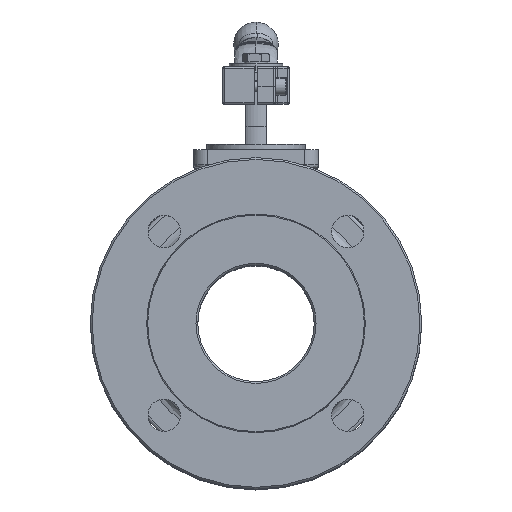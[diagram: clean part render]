
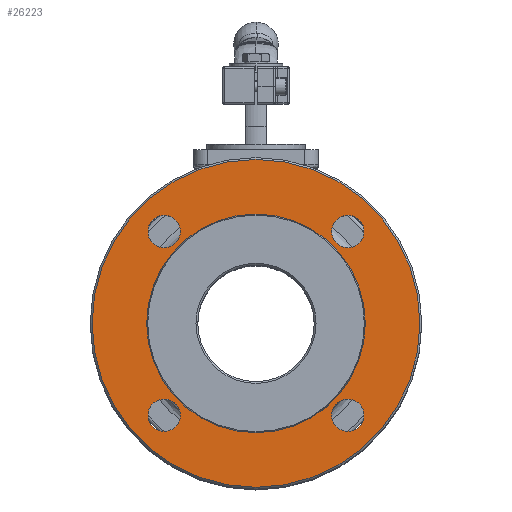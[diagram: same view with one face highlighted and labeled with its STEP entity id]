
A CAD part, top view. The second image highlights one B-rep face of the part: STEP entity #26223.
In plain terms, the highlighted planar face has unit normal (0, 0, 1) as drawn and (0, -1, 0) by its records, which use the part's own axes.
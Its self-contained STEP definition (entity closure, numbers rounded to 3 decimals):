
#77 = ORIENTED_EDGE ( 'NONE', *, *, #17727, .T. ) ;
#435 = ORIENTED_EDGE ( 'NONE', *, *, #30335, .T. ) ;
#806 = CARTESIAN_POINT ( 'NONE',  ( -51.265, -53.253, -55.015 ) ) ;
#941 = EDGE_CURVE ( 'NONE', #44424, #16489, #20390, .T. ) ;
#1043 = DIRECTION ( 'NONE',  ( 0., 0., 1. ) ) ;
#1078 = DIRECTION ( 'NONE',  ( 0., -1., 0. ) ) ;
#1945 = EDGE_CURVE ( 'NONE', #4787, #3110, #35277, .T. ) ;
#2548 = ORIENTED_EDGE ( 'NONE', *, *, #31754, .T. ) ;
#3039 = AXIS2_PLACEMENT_3D ( 'NONE', #7894, #1078, #25359 ) ;
#3110 = VERTEX_POINT ( 'NONE', #44539 ) ;
#3564 = CIRCLE ( 'NONE', #6757, 9. ) ;
#3918 = CIRCLE ( 'NONE', #31579, 9. ) ;
#3977 = DIRECTION ( 'NONE',  ( 0., 1., 0. ) ) ;
#4294 = DIRECTION ( 'NONE',  ( 0., 0., 1. ) ) ;
#4517 = EDGE_LOOP ( 'NONE', ( #14851, #7247 ) ) ;
#4577 = DIRECTION ( 'NONE',  ( 0., 0., 1. ) ) ;
#4787 = VERTEX_POINT ( 'NONE', #6707 ) ;
#4939 = CIRCLE ( 'NONE', #30427, 9. ) ;
#5809 = ORIENTED_EDGE ( 'NONE', *, *, #941, .T. ) ;
#5956 = DIRECTION ( 'NONE',  ( 0., 1., 0. ) ) ;
#6229 = DIRECTION ( 'NONE',  ( 0., 1., 0. ) ) ;
#6707 = CARTESIAN_POINT ( 'NONE',  ( -51.265, -53.253, 56.515 ) ) ;
#6757 = AXIS2_PLACEMENT_3D ( 'NONE', #35159, #14368, #38654 ) ;
#7093 = CIRCLE ( 'NONE', #13274, 9. ) ;
#7239 = FACE_BOUND ( 'NONE', #35645, .T. ) ;
#7247 = ORIENTED_EDGE ( 'NONE', *, *, #16562, .T. ) ;
#7894 = CARTESIAN_POINT ( 'NONE',  ( 0., -53.253, -80.5 ) ) ;
#8058 = CARTESIAN_POINT ( 'NONE',  ( 0., -53.253, -3.75 ) ) ;
#9575 = DIRECTION ( 'NONE',  ( 0., 1., 0. ) ) ;
#9578 = AXIS2_PLACEMENT_3D ( 'NONE', #20120, #6229, #36947 ) ;
#9714 = EDGE_CURVE ( 'NONE', #39435, #20745, #3564, .T. ) ;
#10539 = CARTESIAN_POINT ( 'NONE',  ( 0., -53.253, -3.75 ) ) ;
#10785 = CIRCLE ( 'NONE', #42985, 61. ) ;
#11543 = AXIS2_PLACEMENT_3D ( 'NONE', #10539, #34834, #14036 ) ;
#12037 = CIRCLE ( 'NONE', #24312, 61. ) ;
#13180 = VERTEX_POINT ( 'NONE', #34133 ) ;
#13274 = AXIS2_PLACEMENT_3D ( 'NONE', #26778, #5956, #30256 ) ;
#13666 = DIRECTION ( 'NONE',  ( 0., 1., 0. ) ) ;
#14036 = DIRECTION ( 'NONE',  ( 0., 0., 1. ) ) ;
#14368 = DIRECTION ( 'NONE',  ( 0., 1., 0. ) ) ;
#14508 = VERTEX_POINT ( 'NONE', #29789 ) ;
#14719 = ORIENTED_EDGE ( 'NONE', *, *, #27217, .T. ) ;
#14851 = ORIENTED_EDGE ( 'NONE', *, *, #34736, .T. ) ;
#14862 = CARTESIAN_POINT ( 'NONE',  ( 51.265, -53.253, 38.515 ) ) ;
#15076 = CARTESIAN_POINT ( 'NONE',  ( 0., -53.253, -95.25 ) ) ;
#15397 = EDGE_CURVE ( 'NONE', #15443, #17843, #3918, .T. ) ;
#15443 = VERTEX_POINT ( 'NONE', #14862 ) ;
#16482 = FACE_BOUND ( 'NONE', #23498, .T. ) ;
#16489 = VERTEX_POINT ( 'NONE', #34955 ) ;
#16562 = EDGE_CURVE ( 'NONE', #29947, #23539, #12037, .T. ) ;
#17727 = EDGE_CURVE ( 'NONE', #17843, #15443, #7093, .T. ) ;
#17843 = VERTEX_POINT ( 'NONE', #33901 ) ;
#17999 = DIRECTION ( 'NONE',  ( 0., 1., 0. ) ) ;
#18330 = AXIS2_PLACEMENT_3D ( 'NONE', #8058, #28868, #4577 ) ;
#18844 = CARTESIAN_POINT ( 'NONE',  ( 0., -53.253, -3.75 ) ) ;
#18865 = CARTESIAN_POINT ( 'NONE',  ( 0., -53.253, 57.25 ) ) ;
#20120 = CARTESIAN_POINT ( 'NONE',  ( -51.265, -53.253, 47.515 ) ) ;
#20319 = CIRCLE ( 'NONE', #30900, 9. ) ;
#20390 = CIRCLE ( 'NONE', #18330, 91.5 ) ;
#20745 = VERTEX_POINT ( 'NONE', #43535 ) ;
#20826 = CIRCLE ( 'NONE', #23106, 9. ) ;
#21842 = DIRECTION ( 'NONE',  ( 0., 1., 0. ) ) ;
#22310 = DIRECTION ( 'NONE',  ( 0., 0., 1. ) ) ;
#23106 = AXIS2_PLACEMENT_3D ( 'NONE', #38788, #17999, #42263 ) ;
#23498 = EDGE_LOOP ( 'NONE', ( #39263, #28954 ) ) ;
#23539 = VERTEX_POINT ( 'NONE', #18865 ) ;
#24312 = AXIS2_PLACEMENT_3D ( 'NONE', #24772, #3977, #28267 ) ;
#24772 = CARTESIAN_POINT ( 'NONE',  ( 0., -53.253, -3.75 ) ) ;
#25097 = DIRECTION ( 'NONE',  ( 0., 1., 0. ) ) ;
#25359 = DIRECTION ( 'NONE',  ( 0., 0., -1. ) ) ;
#25724 = FACE_BOUND ( 'NONE', #41715, .T. ) ;
#26223 = ADVANCED_FACE ( 'NONE', ( #26817, #25724, #27912, #16482, #7239, #43103 ), #42660, .T. ) ;
#26579 = ORIENTED_EDGE ( 'NONE', *, *, #9714, .T. ) ;
#26778 = CARTESIAN_POINT ( 'NONE',  ( 51.265, -53.253, 47.515 ) ) ;
#26817 = FACE_OUTER_BOUND ( 'NONE', #39506, .T. ) ;
#27217 = EDGE_CURVE ( 'NONE', #13180, #14508, #20826, .T. ) ;
#27912 = FACE_BOUND ( 'NONE', #31313, .T. ) ;
#28267 = DIRECTION ( 'NONE',  ( 0., 0., 1. ) ) ;
#28868 = DIRECTION ( 'NONE',  ( 0., -1., 0. ) ) ;
#28954 = ORIENTED_EDGE ( 'NONE', *, *, #41973, .T. ) ;
#29410 = EDGE_CURVE ( 'NONE', #20745, #39435, #44630, .T. ) ;
#29518 = ORIENTED_EDGE ( 'NONE', *, *, #15397, .T. ) ;
#29789 = CARTESIAN_POINT ( 'NONE',  ( -51.265, -53.253, -64.015 ) ) ;
#29947 = VERTEX_POINT ( 'NONE', #33436 ) ;
#30256 = DIRECTION ( 'NONE',  ( 0., 0., 1. ) ) ;
#30335 = EDGE_CURVE ( 'NONE', #14508, #13180, #4939, .T. ) ;
#30394 = CARTESIAN_POINT ( 'NONE',  ( 51.265, -53.253, -55.015 ) ) ;
#30427 = AXIS2_PLACEMENT_3D ( 'NONE', #806, #25097, #4294 ) ;
#30437 = CIRCLE ( 'NONE', #11543, 91.5 ) ;
#30900 = AXIS2_PLACEMENT_3D ( 'NONE', #34470, #13666, #37961 ) ;
#31313 = EDGE_LOOP ( 'NONE', ( #14719, #435 ) ) ;
#31579 = AXIS2_PLACEMENT_3D ( 'NONE', #42627, #21842, #1043 ) ;
#31754 = EDGE_CURVE ( 'NONE', #16489, #44424, #30437, .T. ) ;
#32172 = AXIS2_PLACEMENT_3D ( 'NONE', #30394, #9575, #33877 ) ;
#33436 = CARTESIAN_POINT ( 'NONE',  ( 0., -53.253, -64.75 ) ) ;
#33877 = DIRECTION ( 'NONE',  ( 0., 0., 1. ) ) ;
#33901 = CARTESIAN_POINT ( 'NONE',  ( 51.265, -53.253, 56.515 ) ) ;
#34133 = CARTESIAN_POINT ( 'NONE',  ( -51.265, -53.253, -46.015 ) ) ;
#34470 = CARTESIAN_POINT ( 'NONE',  ( -51.265, -53.253, 47.515 ) ) ;
#34736 = EDGE_CURVE ( 'NONE', #23539, #29947, #10785, .T. ) ;
#34834 = DIRECTION ( 'NONE',  ( 0., -1., 0. ) ) ;
#34955 = CARTESIAN_POINT ( 'NONE',  ( 0., -53.253, 87.75 ) ) ;
#35159 = CARTESIAN_POINT ( 'NONE',  ( 51.265, -53.253, -55.015 ) ) ;
#35277 = CIRCLE ( 'NONE', #9578, 9. ) ;
#35645 = EDGE_LOOP ( 'NONE', ( #77, #29518 ) ) ;
#36947 = DIRECTION ( 'NONE',  ( 0., 0., 1. ) ) ;
#37961 = DIRECTION ( 'NONE',  ( 0., 0., 1. ) ) ;
#38053 = ORIENTED_EDGE ( 'NONE', *, *, #29410, .T. ) ;
#38654 = DIRECTION ( 'NONE',  ( 0., 0., 1. ) ) ;
#38788 = CARTESIAN_POINT ( 'NONE',  ( -51.265, -53.253, -55.015 ) ) ;
#39263 = ORIENTED_EDGE ( 'NONE', *, *, #1945, .T. ) ;
#39434 = CARTESIAN_POINT ( 'NONE',  ( 51.265, -53.253, -46.015 ) ) ;
#39435 = VERTEX_POINT ( 'NONE', #39434 ) ;
#39506 = EDGE_LOOP ( 'NONE', ( #2548, #5809 ) ) ;
#41715 = EDGE_LOOP ( 'NONE', ( #26579, #38053 ) ) ;
#41973 = EDGE_CURVE ( 'NONE', #3110, #4787, #20319, .T. ) ;
#42263 = DIRECTION ( 'NONE',  ( 0., 0., 1. ) ) ;
#42627 = CARTESIAN_POINT ( 'NONE',  ( 51.265, -53.253, 47.515 ) ) ;
#42660 = PLANE ( 'NONE',  #3039 ) ;
#42985 = AXIS2_PLACEMENT_3D ( 'NONE', #18844, #43101, #22310 ) ;
#43101 = DIRECTION ( 'NONE',  ( 0., 1., 0. ) ) ;
#43103 = FACE_BOUND ( 'NONE', #4517, .T. ) ;
#43535 = CARTESIAN_POINT ( 'NONE',  ( 51.265, -53.253, -64.015 ) ) ;
#44424 = VERTEX_POINT ( 'NONE', #15076 ) ;
#44539 = CARTESIAN_POINT ( 'NONE',  ( -51.265, -53.253, 38.515 ) ) ;
#44630 = CIRCLE ( 'NONE', #32172, 9. ) ;
